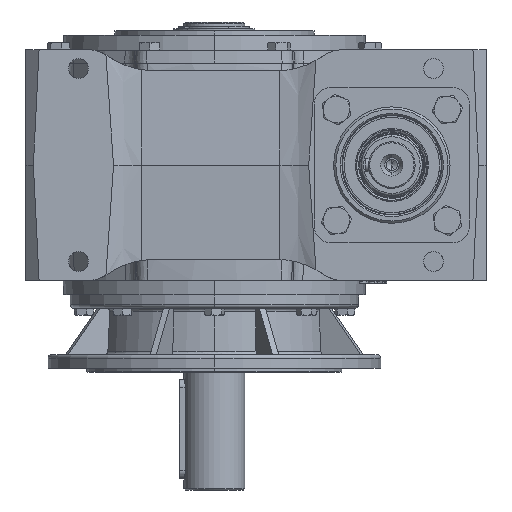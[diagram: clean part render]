
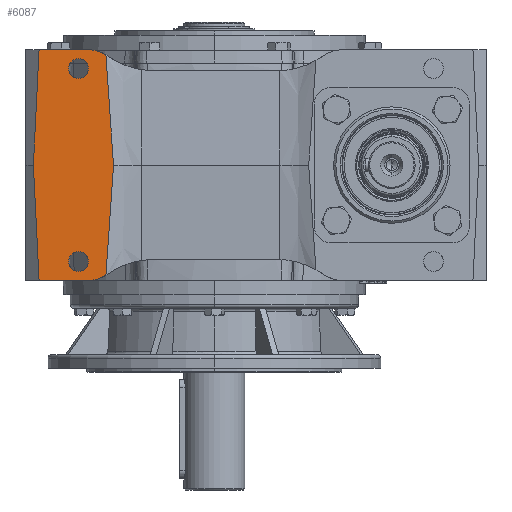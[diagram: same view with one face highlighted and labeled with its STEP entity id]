
A CAD part, left-side view. The second image highlights one B-rep face of the part: STEP entity #6087.
In plain terms, the highlighted planar face has unit normal (-1, 0, 0).
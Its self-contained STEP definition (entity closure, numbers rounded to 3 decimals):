
#806 = CARTESIAN_POINT ( 'NONE',  ( -170., 122.5, 87. ) ) ;
#2460 = CARTESIAN_POINT ( 'NONE',  ( -170., 170., 149. ) ) ;
#2609 = AXIS2_PLACEMENT_3D ( 'NONE', #18099, #78019, #26710 ) ;
#3905 = ORIENTED_EDGE ( 'NONE', *, *, #98117, .F. ) ;
#4219 = EDGE_CURVE ( 'NONE', #55164, #32615, #95480, .T. ) ;
#5235 = EDGE_LOOP ( 'NONE', ( #68388, #104159 ) ) ;
#5922 = DIRECTION ( 'NONE',  ( 0., 1., 0. ) ) ;
#6087 = ADVANCED_FACE ( 'NONE', ( #20559, #108907, #71435 ), #87862, .F. ) ;
#6485 = CARTESIAN_POINT ( 'NONE',  ( -170., 91.006, 0. ) ) ;
#7391 = VECTOR ( 'NONE', #89416, 1000. ) ;
#8384 = CIRCLE ( 'NONE', #90904, 30. ) ;
#9401 = DIRECTION ( 'NONE',  ( 0., 0., 1. ) ) ;
#10054 = EDGE_CURVE ( 'NONE', #13208, #46765, #52278, .T. ) ;
#10944 = CIRCLE ( 'NONE', #21543, 9. ) ;
#12231 = CARTESIAN_POINT ( 'NONE',  ( -170., 113.851, -104. ) ) ;
#13208 = VERTEX_POINT ( 'NONE', #76307 ) ;
#13319 = VERTEX_POINT ( 'NONE', #17507 ) ;
#16365 = CARTESIAN_POINT ( 'NONE',  ( -170., 92.258, 16.555 ) ) ;
#17507 = CARTESIAN_POINT ( 'NONE',  ( -170., 158.098, -104. ) ) ;
#18099 = CARTESIAN_POINT ( 'NONE',  ( -170., 122.5, -87. ) ) ;
#19745 = DIRECTION ( 'NONE',  ( 0., 1., 0. ) ) ;
#19902 = ORIENTED_EDGE ( 'NONE', *, *, #10054, .F. ) ;
#20559 = FACE_BOUND ( 'NONE', #5235, .T. ) ;
#21320 = CARTESIAN_POINT ( 'NONE',  ( -170., 122.5, -78. ) ) ;
#21543 = AXIS2_PLACEMENT_3D ( 'NONE', #91885, #40621, #100468 ) ;
#22083 = DIRECTION ( 'NONE',  ( -1., 0., 0. ) ) ;
#22598 = CIRCLE ( 'NONE', #2609, 9. ) ;
#25653 = CARTESIAN_POINT ( 'NONE',  ( -170., 122.5, -87. ) ) ;
#26710 = DIRECTION ( 'NONE',  ( 0., 0., 1. ) ) ;
#28409 = VERTEX_POINT ( 'NONE', #12231 ) ;
#28416 = CARTESIAN_POINT ( 'NONE',  ( -170., 64.974, 104. ) ) ;
#28871 = VECTOR ( 'NONE', #99727, 1000. ) ;
#29487 = VECTOR ( 'NONE', #88653, 1000. ) ;
#29516 = ORIENTED_EDGE ( 'NONE', *, *, #101334, .F. ) ;
#29539 = CARTESIAN_POINT ( 'NONE',  ( -170., 158.159, -102.763 ) ) ;
#32615 = VERTEX_POINT ( 'NONE', #43730 ) ;
#32776 = CARTESIAN_POINT ( 'NONE',  ( -170., 91.006, 0. ) ) ;
#33337 = AXIS2_PLACEMENT_3D ( 'NONE', #25653, #85539, #34253 ) ;
#33476 = CARTESIAN_POINT ( 'NONE',  ( -170., 163.234, 0. ) ) ;
#34253 = DIRECTION ( 'NONE',  ( 0., 0., 1. ) ) ;
#35496 = VERTEX_POINT ( 'NONE', #21320 ) ;
#38137 = VECTOR ( 'NONE', #74672, 1000. ) ;
#39644 = EDGE_CURVE ( 'NONE', #104272, #13319, #98485, .T. ) ;
#40621 = DIRECTION ( 'NONE',  ( -1., 0., 0. ) ) ;
#41358 = CARTESIAN_POINT ( 'NONE',  ( -170., 92.258, -16.555 ) ) ;
#42228 = CARTESIAN_POINT ( 'NONE',  ( -170., 95.711, 66.242 ) ) ;
#43730 = CARTESIAN_POINT ( 'NONE',  ( -170., 97.852, 99.377 ) ) ;
#44594 = ORIENTED_EDGE ( 'NONE', *, *, #91480, .T. ) ;
#45793 = CIRCLE ( 'NONE', #105327, 9. ) ;
#46765 = VERTEX_POINT ( 'NONE', #91922 ) ;
#47931 = VERTEX_POINT ( 'NONE', #96988 ) ;
#49971 = CARTESIAN_POINT ( 'NONE',  ( -170., 95.711, -66.242 ) ) ;
#50824 = CARTESIAN_POINT ( 'NONE',  ( -170., 97.852, 99.377 ) ) ;
#52278 = LINE ( 'NONE', #28416, #29487 ) ;
#53700 = AXIS2_PLACEMENT_3D ( 'NONE', #108464, #57224, #5922 ) ;
#54177 = VERTEX_POINT ( 'NONE', #55470 ) ;
#55164 = VERTEX_POINT ( 'NONE', #6485 ) ;
#55470 = CARTESIAN_POINT ( 'NONE',  ( -170., 122.5, 78. ) ) ;
#57224 = DIRECTION ( 'NONE',  ( -1., 0., 0. ) ) ;
#58429 = AXIS2_PLACEMENT_3D ( 'NONE', #2460, #70981, #19745 ) ;
#58565 = CARTESIAN_POINT ( 'NONE',  ( -170., 97.852, -99.377 ) ) ;
#59842 = EDGE_CURVE ( 'NONE', #104272, #13208, #60925, .T. ) ;
#60738 = DIRECTION ( 'NONE',  ( -1., 0., 0. ) ) ;
#60925 = LINE ( 'NONE', #102670, #38137 ) ;
#63158 = ORIENTED_EDGE ( 'NONE', *, *, #4219, .T. ) ;
#63527 = ORIENTED_EDGE ( 'NONE', *, *, #59842, .F. ) ;
#64365 = EDGE_CURVE ( 'NONE', #28409, #47931, #103653, .T. ) ;
#65614 = CARTESIAN_POINT ( 'NONE',  ( -170., 64.974, -104. ) ) ;
#66198 = EDGE_CURVE ( 'NONE', #78420, #54177, #10944, .T. ) ;
#67404 = B_SPLINE_CURVE_WITH_KNOTS ( 'NONE', 3,
 ( #32776, #41358, #101225, #49971, #109812, #58565 ),
 .UNSPECIFIED., .F., .F.,
 ( 4, 2, 4 ),
 ( 0.135, 0.184, 0.234 ),
 .UNSPECIFIED. ) ;
#68388 = ORIENTED_EDGE ( 'NONE', *, *, #70802, .F. ) ;
#68594 = ORIENTED_EDGE ( 'NONE', *, *, #64365, .T. ) ;
#70802 = EDGE_CURVE ( 'NONE', #35496, #87893, #85717, .T. ) ;
#70981 = DIRECTION ( 'NONE',  ( 1., 0., 0. ) ) ;
#71241 = ORIENTED_EDGE ( 'NONE', *, *, #66198, .F. ) ;
#71435 = FACE_OUTER_BOUND ( 'NONE', #106326, .T. ) ;
#73296 = EDGE_CURVE ( 'NONE', #87893, #35496, #22598, .T. ) ;
#73343 = CARTESIAN_POINT ( 'NONE',  ( -170., 113.851, 74. ) ) ;
#74672 = DIRECTION ( 'NONE',  ( 0., -0.049, 0.999 ) ) ;
#76292 = CARTESIAN_POINT ( 'NONE',  ( -170., 93.44, 33.115 ) ) ;
#76307 = CARTESIAN_POINT ( 'NONE',  ( -170., 158.098, 104. ) ) ;
#76657 = EDGE_LOOP ( 'NONE', ( #71241, #29516 ) ) ;
#77121 = LINE ( 'NONE', #65614, #28871 ) ;
#78019 = DIRECTION ( 'NONE',  ( -1., 0., 0. ) ) ;
#78420 = VERTEX_POINT ( 'NONE', #92798 ) ;
#81974 = DIRECTION ( 'NONE',  ( 0., 1., 0. ) ) ;
#85539 = DIRECTION ( 'NONE',  ( -1., 0., 0. ) ) ;
#85717 = CIRCLE ( 'NONE', #33337, 9. ) ;
#87862 = PLANE ( 'NONE',  #58429 ) ;
#87893 = VERTEX_POINT ( 'NONE', #92251 ) ;
#87902 = EDGE_CURVE ( 'NONE', #55164, #47931, #67404, .T. ) ;
#88653 = DIRECTION ( 'NONE',  ( 0., -1., 0. ) ) ;
#89416 = DIRECTION ( 'NONE',  ( 0., -0.049, -0.999 ) ) ;
#90904 = AXIS2_PLACEMENT_3D ( 'NONE', #73343, #22083, #81974 ) ;
#91480 = EDGE_CURVE ( 'NONE', #32615, #46765, #8384, .T. ) ;
#91505 = ORIENTED_EDGE ( 'NONE', *, *, #87902, .F. ) ;
#91885 = CARTESIAN_POINT ( 'NONE',  ( -170., 122.5, 87. ) ) ;
#91922 = CARTESIAN_POINT ( 'NONE',  ( -170., 113.851, 104. ) ) ;
#92251 = CARTESIAN_POINT ( 'NONE',  ( -170., 122.5, -96. ) ) ;
#92798 = CARTESIAN_POINT ( 'NONE',  ( -170., 122.5, 96. ) ) ;
#93493 = CARTESIAN_POINT ( 'NONE',  ( -170., 91.006, 0. ) ) ;
#95480 = B_SPLINE_CURVE_WITH_KNOTS ( 'NONE', 3,
 ( #93493, #16365, #76292, #42228, #102073, #50824 ),
 .UNSPECIFIED., .F., .F.,
 ( 4, 2, 4 ),
 ( 0.098, 0.147, 0.197 ),
 .UNSPECIFIED. ) ;
#96988 = CARTESIAN_POINT ( 'NONE',  ( -170., 97.852, -99.377 ) ) ;
#98117 = EDGE_CURVE ( 'NONE', #28409, #13319, #77121, .T. ) ;
#98485 = LINE ( 'NONE', #29539, #7391 ) ;
#99727 = DIRECTION ( 'NONE',  ( 0., 1., 0. ) ) ;
#100468 = DIRECTION ( 'NONE',  ( 0., 0., 1. ) ) ;
#101225 = CARTESIAN_POINT ( 'NONE',  ( -170., 93.44, -33.115 ) ) ;
#101334 = EDGE_CURVE ( 'NONE', #54177, #78420, #45793, .T. ) ;
#102073 = CARTESIAN_POINT ( 'NONE',  ( -170., 96.799, 82.809 ) ) ;
#102670 = CARTESIAN_POINT ( 'NONE',  ( -170., 158.159, 102.763 ) ) ;
#103653 = CIRCLE ( 'NONE', #53700, 30. ) ;
#104159 = ORIENTED_EDGE ( 'NONE', *, *, #73296, .F. ) ;
#104272 = VERTEX_POINT ( 'NONE', #33476 ) ;
#105327 = AXIS2_PLACEMENT_3D ( 'NONE', #806, #60738, #9401 ) ;
#106326 = EDGE_LOOP ( 'NONE', ( #63158, #44594, #19902, #63527, #109171, #3905, #68594, #91505 ) ) ;
#108464 = CARTESIAN_POINT ( 'NONE',  ( -170., 113.851, -74. ) ) ;
#108907 = FACE_BOUND ( 'NONE', #76657, .T. ) ;
#109171 = ORIENTED_EDGE ( 'NONE', *, *, #39644, .T. ) ;
#109812 = CARTESIAN_POINT ( 'NONE',  ( -170., 96.799, -82.808 ) ) ;
